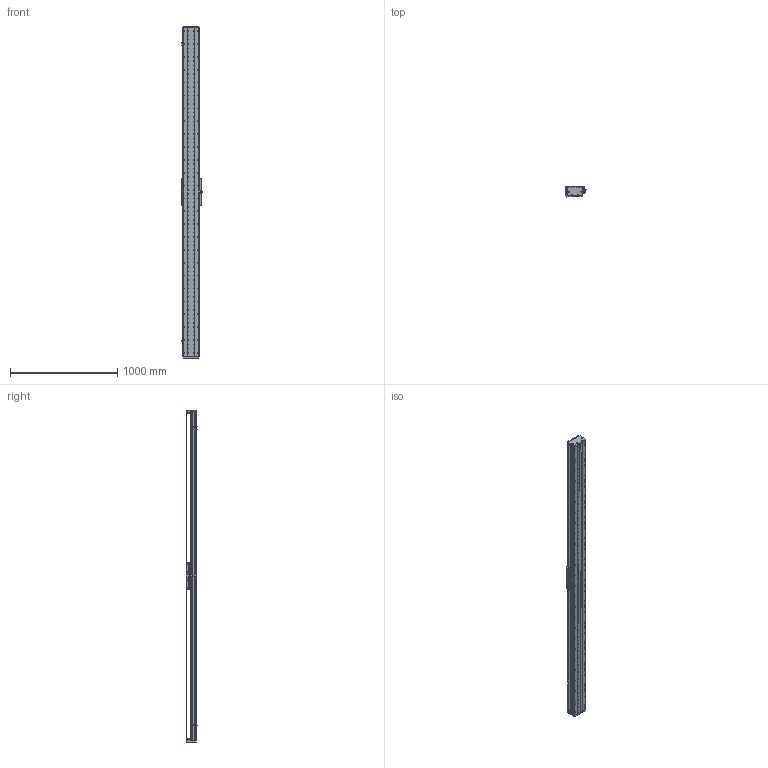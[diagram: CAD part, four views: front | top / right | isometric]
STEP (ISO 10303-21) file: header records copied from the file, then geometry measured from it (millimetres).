
FILE_DESCRIPTION (( 'STEP AP203' ), '1' );
FILE_NAME ('DA-C145-C3-T2760-C010-0.2 眻盄萇儂.STEP', '2025-08-14T01:35:14', ( '' ), ( '' ), 'SwSTEP 2.0', 'SolidWorks 2019', '' );
FILE_SCHEMA (( 'CONFIG_CONTROL_DESIGN' ));
Length unit declared in the file: millimetre
Products named in the file (32): 葩璃 CKMA01-W060-TRL^DA-C145-C3-T-C010-0.2; 葩璃 CU145 詩湍郪璃^DA-C145-C3-T-C010-0.2; 葩璃 DA145-C3-DP-A-00 菜えA^CU145-W 幗紩賑怢; 复件 半圆头内六角螺钉 M3×6^CU145-W 滚珠滑台; 复件 DA146 钢带拉块^复件 CU145 钢带组件_DA-C145-C3-T-C010-0.2; 复件 DA95-MFP-01 密封片^CU145-W 滚珠滑台; 复件 DA95-HK-GT-00 滑块钢轨^CU145-W-00 一体化滑动台板; 葩璃 DA95-GT-T-00^IU-CU145-L 菁釱絳寢; 复件 DA145-C3-YB-A-00 压板A^CU145-W 滚珠滑台; 复件 纯铜油杯 6x6mm^CU145-W 滚珠滑台; 葩璃 PM-T45^DA-C145-C3-T-C010-0.2; 葩璃 CKM03-W060-C1C2-TP-0.2^DA-C145-C3-T-C010-0.2; TAY01-M8; 葩璃 DA95-HXJ-00 遣喳砎蝶^DA-C145-C3-T-C010-0.2; CU145-W-00 珨极趙賑雄怢啣; DA-C145-C3-T2760-C010-0.2 眻盄萇儂; 复件 DA145-GYP-00 光电感应片^DA-C145-C3-T-C010-0.2; 复件 DA145-C3-YB-B-00 压板B^CU145-W 滚珠滑台; 葩璃 鞠褒情蹟譫 M3^DA-C145-C3-T-C010-0.2; IU-CU145-L 菁釱絳寢; 葩璃 DMA-010-0.2 黍杅芛^DA-C145-C3-T-C010-0.2; 葩璃 XD-U-02L 棠掑喜^DA-C145-C3-T-C010-0.2; 复件 DA145-DG 钢带端盖^复件 CU145 钢带组件_DA-C145-C3-T-C010-0.2; CU145-W 幗紩賑怢; 复件 DA145-C3-DK-00 挡块^CU145-W 滚珠滑台; 66245-CU145-HT-W-00 賑雄怢啣(3D芞祧)(00); 复件 内六角平端紧定螺钉 GB.T77-2000 M5×10^CU145-W 滚珠滑台; 复件 DA95-DB-00  挡板^CU145-W 滚珠滑台; 复件 DA145 钢带^复件 CU145 钢带组件_DA-C145-C3-T-C010-0.2; 复件 DA146 钢带垫块^复件 CU145 钢带组件_DA-C145-C3-T-C010-0.2; IU-CU145-L-00 菁釱(L3060); 葩璃 DA145-C3-DP-B-00 菜えB^CU145-W 幗紩賑怢
Assembly tree (103 placements, depth 4):
  DA-C145-C3-T2760-C010-0.2 眻盄萇儂
    IU-CU145-L 菁釱絳寢
      IU-CU145-L-00 菁釱(L3060)
      葩璃 DA95-GT-T-00^IU-CU145-L 菁釱絳寢  x4
    葩璃 CU145 詩湍郪璃^DA-C145-C3-T-C010-0.2
      复件 DA145-DG 钢带端盖^复件 CU145 钢带组件_DA-C145-C3-T-C010-0.2  x2
      复件 DA146 钢带拉块^复件 CU145 钢带组件_DA-C145-C3-T-C010-0.2  x2
      复件 DA146 钢带垫块^复件 CU145 钢带组件_DA-C145-C3-T-C010-0.2  x2
      复件 DA145 钢带^复件 CU145 钢带组件_DA-C145-C3-T-C010-0.2
    CU145-W 幗紩賑怢
      CU145-W-00 珨极趙賑雄怢啣
        66245-CU145-HT-W-00 賑雄怢啣(3D芞祧)(00)
        复件 DA95-HK-GT-00 滑块钢轨^CU145-W-00 一体化滑动台板  x8
      复件 DA95-MFP-01 密封片^CU145-W 滚珠滑台  x8
      复件 DA95-DB-00  挡板^CU145-W 滚珠滑台  x8
      复件 内六角平端紧定螺钉 GB.T77-2000 M5×10^CU145-W 滚珠滑台  x4
      复件 纯铜油杯 6x6mm^CU145-W 滚珠滑台  x4
      复件 半圆头内六角螺钉 M3×6^CU145-W 滚珠滑台  x16
      复件 DA145-C3-DK-00 挡块^CU145-W 滚珠滑台  x4
      葩璃 DA145-C3-DP-B-00 菜えB^CU145-W 幗紩賑怢  x2
      复件 DA145-C3-YB-B-00 压板B^CU145-W 滚珠滑台  x2
      葩璃 DA145-C3-DP-A-00 菜えA^CU145-W 幗紩賑怢  x3
      复件 DA145-C3-YB-A-00 压板A^CU145-W 滚珠滑台  x3
      TAY01-M8  x4
    葩璃 CKMA01-W060-TRL^DA-C145-C3-T-C010-0.2
    葩璃 PM-T45^DA-C145-C3-T-C010-0.2  x3
    葩璃 XD-U-02L 棠掑喜^DA-C145-C3-T-C010-0.2
    葩璃 DA95-HXJ-00 遣喳砎蝶^DA-C145-C3-T-C010-0.2  x4
    复件 DA145-GYP-00 光电感应片^DA-C145-C3-T-C010-0.2
    葩璃 DMA-010-0.2 黍杅芛^DA-C145-C3-T-C010-0.2
    葩璃 CKM03-W060-C1C2-TP-0.2^DA-C145-C3-T-C010-0.2
    葩璃 鞠褒情蹟譫 M3^DA-C145-C3-T-C010-0.2  x8
Bounding box: 203.5 x 108.45 x 3096 mm (x, y, z)
Volume: 14193970.1 mm3; surface area: 4788745.8 mm2
Topology: 99 solids, 131 shells, 4841 faces, 14066 edges, 8842 vertices
Faces by surface type: cylinder 2469, plane 1604, cone 690, torus 74, sphere 4
Entity records: 139288 total; most frequent: CARTESIAN_POINT 42870, ORIENTED_EDGE 19652, DIRECTION 18417, EDGE_CURVE 9826, AXIS2_PLACEMENT_3D 6928, VERTEX_POINT 6381, LINE 4561, VECTOR 4561
